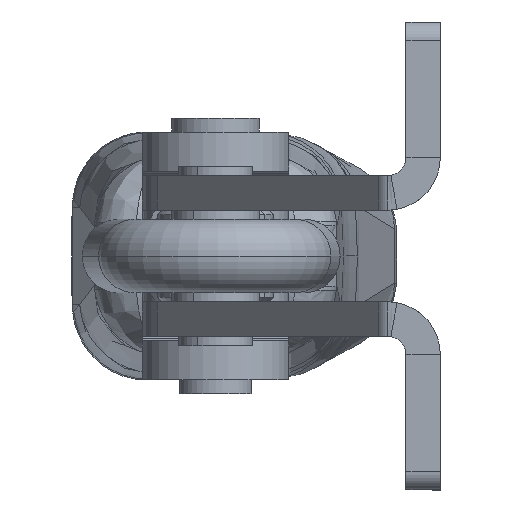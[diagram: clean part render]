
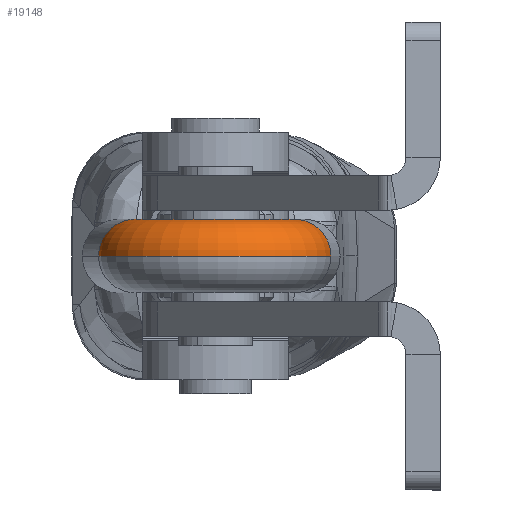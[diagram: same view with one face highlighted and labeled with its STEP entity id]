
A CAD part, left-side view. The second image highlights one B-rep face of the part: STEP entity #19148.
In plain terms, the highlighted toroidal (fillet/blend) face has major radius 8.75 mm and minor radius 4 mm.
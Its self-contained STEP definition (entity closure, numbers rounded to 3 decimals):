
#307 = CIRCLE ( 'NONE', #12220, 4. ) ;
#603 = DIRECTION ( 'NONE',  ( 1., 0., 0. ) ) ;
#1328 = EDGE_CURVE ( 'NONE', #6938, #7038, #11640, .T. ) ;
#2055 = CARTESIAN_POINT ( 'NONE',  ( -13.684, 123.036, 0. ) ) ;
#2210 = CARTESIAN_POINT ( 'NONE',  ( -9.768, 123.852, 0. ) ) ;
#2697 = CARTESIAN_POINT ( 'NONE',  ( -17.6, 122.219, 0. ) ) ;
#2894 = CARTESIAN_POINT ( 'NONE',  ( -27., 121.25, 0. ) ) ;
#2957 = CIRCLE ( 'NONE', #9142, 4. ) ;
#3274 = EDGE_LOOP ( 'NONE', ( #4220, #13011, #13567, #4526, #11961 ) ) ;
#3577 = AXIS2_PLACEMENT_3D ( 'NONE', #9026, #19955, #10609 ) ;
#3653 = DIRECTION ( 'NONE',  ( -0.979, -0.204, 0. ) ) ;
#4087 = EDGE_CURVE ( 'NONE', #18784, #19723, #307, .T. ) ;
#4220 = ORIENTED_EDGE ( 'NONE', *, *, #17125, .F. ) ;
#4526 = ORIENTED_EDGE ( 'NONE', *, *, #13362, .T. ) ;
#4855 = AXIS2_PLACEMENT_3D ( 'NONE', #19303, #9969, #603 ) ;
#5171 = CARTESIAN_POINT ( 'NONE',  ( -31., 121.25, 4. ) ) ;
#5780 = VERTEX_POINT ( 'NONE', #2210 ) ;
#6513 = AXIS2_PLACEMENT_3D ( 'NONE', #2055, #12978, #3653 ) ;
#6797 = TOROIDAL_SURFACE ( 'NONE', #16361, 8.75, 4. ) ;
#6938 = VERTEX_POINT ( 'NONE', #2697 ) ;
#7038 = VERTEX_POINT ( 'NONE', #2894 ) ;
#8605 = EDGE_CURVE ( 'NONE', #5780, #18784, #10201, .T. ) ;
#8620 = CARTESIAN_POINT ( 'NONE',  ( -31., 121.25, 0. ) ) ;
#9001 = DIRECTION ( 'NONE',  ( 0., 1., 0. ) ) ;
#9026 = CARTESIAN_POINT ( 'NONE',  ( -22.25, 121.25, 0. ) ) ;
#9142 = AXIS2_PLACEMENT_3D ( 'NONE', #18358, #9001, #19928 ) ;
#9704 = CARTESIAN_POINT ( 'NONE',  ( -22.25, 121.25, 0. ) ) ;
#9969 = DIRECTION ( 'NONE',  ( 0., 0., 1. ) ) ;
#10191 = DIRECTION ( 'NONE',  ( 1., 0., 0. ) ) ;
#10201 = CIRCLE ( 'NONE', #3577, 12.75 ) ;
#10609 = DIRECTION ( 'NONE',  ( 1., 0., 0. ) ) ;
#11288 = DIRECTION ( 'NONE',  ( 1., 0., 0. ) ) ;
#11640 = CIRCLE ( 'NONE', #4855, 4.75 ) ;
#11961 = ORIENTED_EDGE ( 'NONE', *, *, #1328, .F. ) ;
#12220 = AXIS2_PLACEMENT_3D ( 'NONE', #8620, #19535, #10191 ) ;
#12468 = CARTESIAN_POINT ( 'NONE',  ( -35., 121.25, 0. ) ) ;
#12779 = DIRECTION ( 'NONE',  ( 0., 0., 1. ) ) ;
#12978 = DIRECTION ( 'NONE',  ( 0.204, -0.979, 0. ) ) ;
#13011 = ORIENTED_EDGE ( 'NONE', *, *, #8605, .T. ) ;
#13362 = EDGE_CURVE ( 'NONE', #19723, #7038, #2957, .T. ) ;
#13567 = ORIENTED_EDGE ( 'NONE', *, *, #4087, .T. ) ;
#14641 = CIRCLE ( 'NONE', #6513, 4. ) ;
#15124 = FACE_OUTER_BOUND ( 'NONE', #3274, .T. ) ;
#16361 = AXIS2_PLACEMENT_3D ( 'NONE', #9704, #12779, #11288 ) ;
#17125 = EDGE_CURVE ( 'NONE', #5780, #6938, #14641, .T. ) ;
#18358 = CARTESIAN_POINT ( 'NONE',  ( -31., 121.25, 0. ) ) ;
#18784 = VERTEX_POINT ( 'NONE', #12468 ) ;
#19148 = ADVANCED_FACE ( 'NONE', ( #15124 ), #6797, .T. ) ;
#19303 = CARTESIAN_POINT ( 'NONE',  ( -22.25, 121.25, 0. ) ) ;
#19535 = DIRECTION ( 'NONE',  ( 0., 1., 0. ) ) ;
#19723 = VERTEX_POINT ( 'NONE', #5171 ) ;
#19928 = DIRECTION ( 'NONE',  ( 1., 0., 0. ) ) ;
#19955 = DIRECTION ( 'NONE',  ( 0., 0., 1. ) ) ;
